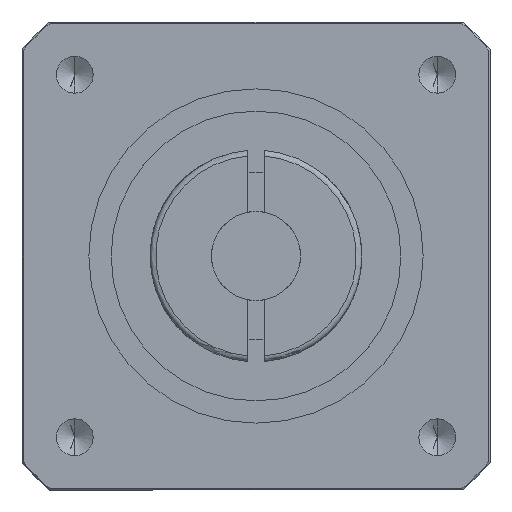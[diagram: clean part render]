
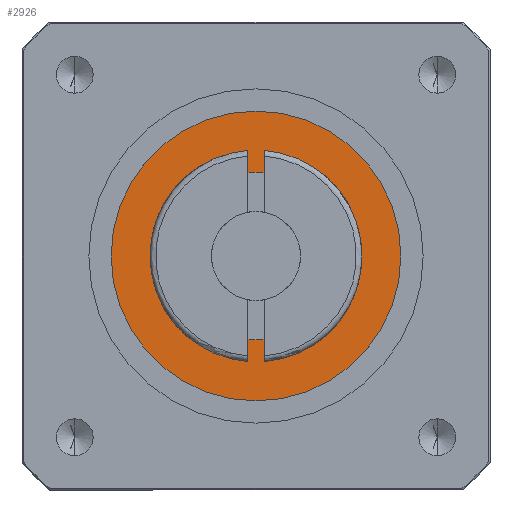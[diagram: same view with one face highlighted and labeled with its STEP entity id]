
A CAD part, front view. The second image highlights one B-rep face of the part: STEP entity #2926.
In plain terms, the highlighted planar face has unit normal (0, -1, 0).
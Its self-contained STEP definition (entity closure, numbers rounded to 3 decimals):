
#109 = EDGE_CURVE ( 'NONE', #1137, #1160, #1619, .T. ) ;
#110 = EDGE_CURVE ( 'NONE', #1110, #1171, #1621, .T. ) ;
#232 = AXIS2_PLACEMENT_3D ( 'NONE', #3730, #3731, #3732 ) ;
#233 = AXIS2_PLACEMENT_3D ( 'NONE', #3733, #3734, #3735 ) ;
#312 = EDGE_LOOP ( 'NONE', ( #5797, #5798 ) ) ;
#316 = EDGE_LOOP ( 'NONE', ( #5799, #5800 ) ) ;
#1110 = VERTEX_POINT ( 'NONE', #9159 ) ;
#1137 = VERTEX_POINT ( 'NONE', #9186 ) ;
#1160 = VERTEX_POINT ( 'NONE', #9209 ) ;
#1171 = VERTEX_POINT ( 'NONE', #9220 ) ;
#1619 = CIRCLE ( 'NONE', #232, 13. ) ;
#1621 = CIRCLE ( 'NONE', #233, 7.5 ) ;
#2299 = FACE_OUTER_BOUND ( 'NONE', #312, .T. ) ;
#2302 = FACE_BOUND ( 'NONE', #316, .T. ) ;
#2926 = ADVANCED_FACE ( 'NONE', ( #2299, #2302 ), #6481, .T. ) ;
#3730 = CARTESIAN_POINT ( 'NONE',  ( 0., -45., 0. ) ) ;
#3731 = DIRECTION ( 'NONE',  ( 0., -1., 0. ) ) ;
#3732 = DIRECTION ( 'NONE',  ( 0., 0., -1. ) ) ;
#3733 = CARTESIAN_POINT ( 'NONE',  ( 0., -45., 0. ) ) ;
#3734 = DIRECTION ( 'NONE',  ( 0., 1., 0. ) ) ;
#3735 = DIRECTION ( 'NONE',  ( 0., 0., 1. ) ) ;
#4936 = AXIS2_PLACEMENT_3D ( 'NONE', #6475, #6483, #6484 ) ;
#5797 = ORIENTED_EDGE ( 'NONE', *, *, #109, .T. ) ;
#5798 = ORIENTED_EDGE ( 'NONE', *, *, #9952, .T. ) ;
#5799 = ORIENTED_EDGE ( 'NONE', *, *, #9937, .T. ) ;
#5800 = ORIENTED_EDGE ( 'NONE', *, *, #110, .T. ) ;
#6475 = CARTESIAN_POINT ( 'NONE',  ( 0., -45., 0. ) ) ;
#6481 = PLANE ( 'NONE',  #4936 ) ;
#6483 = DIRECTION ( 'NONE',  ( 0., -1., 0. ) ) ;
#6484 = DIRECTION ( 'NONE',  ( 0., 0., -1. ) ) ;
#8660 = CIRCLE ( 'NONE', #10150, 7.5 ) ;
#8693 = CIRCLE ( 'NONE', #10155, 13. ) ;
#8908 = CARTESIAN_POINT ( 'NONE',  ( 0., -45., 0. ) ) ;
#8909 = DIRECTION ( 'NONE',  ( 0., 1., 0. ) ) ;
#8910 = DIRECTION ( 'NONE',  ( 0., 0., 1. ) ) ;
#9051 = CARTESIAN_POINT ( 'NONE',  ( 0., -45., 0. ) ) ;
#9052 = DIRECTION ( 'NONE',  ( 0., -1., 0. ) ) ;
#9053 = DIRECTION ( 'NONE',  ( 0., 0., -1. ) ) ;
#9159 = CARTESIAN_POINT ( 'NONE',  ( 0., -45., -7.5 ) ) ;
#9186 = CARTESIAN_POINT ( 'NONE',  ( 0., -45., -13. ) ) ;
#9209 = CARTESIAN_POINT ( 'NONE',  ( 0., -45., 13. ) ) ;
#9220 = CARTESIAN_POINT ( 'NONE',  ( 0., -45., 7.5 ) ) ;
#9937 = EDGE_CURVE ( 'NONE', #1171, #1110, #8660, .T. ) ;
#9952 = EDGE_CURVE ( 'NONE', #1160, #1137, #8693, .T. ) ;
#10150 = AXIS2_PLACEMENT_3D ( 'NONE', #8908, #8909, #8910 ) ;
#10155 = AXIS2_PLACEMENT_3D ( 'NONE', #9051, #9052, #9053 ) ;
